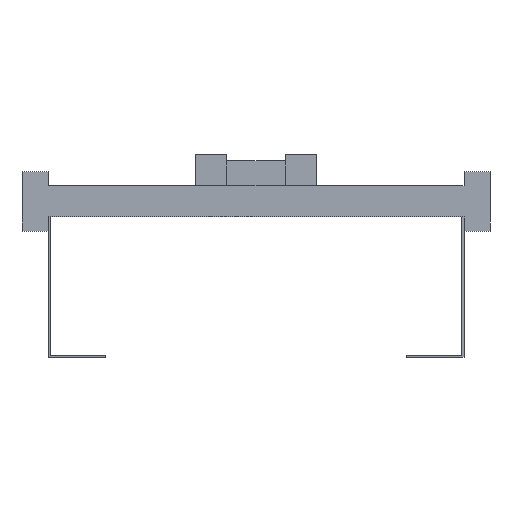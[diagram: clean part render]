
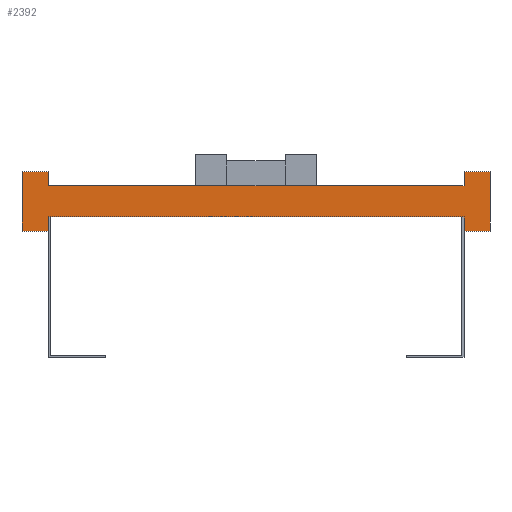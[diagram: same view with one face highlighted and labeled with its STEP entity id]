
A CAD part, front view. The second image highlights one B-rep face of the part: STEP entity #2392.
In plain terms, the highlighted planar face has unit normal (0, -1, 0).
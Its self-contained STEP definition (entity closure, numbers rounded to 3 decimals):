
#1=DIRECTION('',(0.,0.,1.));
#2=VECTOR('',#1,13.5);
#3=CARTESIAN_POINT('',(200.,0.,-28.5));
#4=LINE('',#3,#2);
#5=DIRECTION('',(0.,0.,-1.));
#6=VECTOR('',#5,13.5);
#7=CARTESIAN_POINT('',(-200.,0.,-15.));
#8=LINE('',#7,#6);
#9=DIRECTION('',(-1.,0.,0.));
#10=VECTOR('',#9,25.);
#11=CARTESIAN_POINT('',(-200.,0.,-28.5));
#12=LINE('',#11,#10);
#13=DIRECTION('',(0.,0.,1.));
#14=VECTOR('',#13,57.);
#15=CARTESIAN_POINT('',(-225.,0.,-28.5));
#16=LINE('',#15,#14);
#17=DIRECTION('',(1.,0.,0.));
#18=VECTOR('',#17,25.);
#19=CARTESIAN_POINT('',(-225.,0.,28.5));
#20=LINE('',#19,#18);
#21=DIRECTION('',(0.,0.,-1.));
#22=VECTOR('',#21,13.5);
#23=CARTESIAN_POINT('',(-200.,0.,28.5));
#24=LINE('',#23,#22);
#25=DIRECTION('',(0.,0.,1.));
#26=VECTOR('',#25,13.5);
#27=CARTESIAN_POINT('',(200.,0.,15.));
#28=LINE('',#27,#26);
#29=DIRECTION('',(1.,0.,0.));
#30=VECTOR('',#29,25.);
#31=CARTESIAN_POINT('',(200.,0.,28.5));
#32=LINE('',#31,#30);
#33=DIRECTION('',(0.,0.,-1.));
#34=VECTOR('',#33,57.);
#35=CARTESIAN_POINT('',(225.,0.,28.5));
#36=LINE('',#35,#34);
#37=DIRECTION('',(-1.,0.,0.));
#38=VECTOR('',#37,25.);
#39=CARTESIAN_POINT('',(225.,0.,-28.5));
#40=LINE('',#39,#38);
#1785=DIRECTION('',(1.,0.,0.));
#1786=VECTOR('',#1785,400.);
#1787=CARTESIAN_POINT('',(-200.,0.,-15.));
#1788=LINE('',#1787,#1786);
#1797=DIRECTION('',(1.,0.,0.));
#1798=VECTOR('',#1797,400.);
#1799=CARTESIAN_POINT('',(-200.,0.,15.));
#1800=LINE('',#1799,#1798);
#1801=CARTESIAN_POINT('',(-225.,0.,28.5));
#1802=CARTESIAN_POINT('',(-200.,0.,28.5));
#1803=VERTEX_POINT('',#1801);
#1804=VERTEX_POINT('',#1802);
#1805=CARTESIAN_POINT('',(-200.,0.,-28.5));
#1806=CARTESIAN_POINT('',(-225.,0.,-28.5));
#1807=VERTEX_POINT('',#1805);
#1808=VERTEX_POINT('',#1806);
#1809=CARTESIAN_POINT('',(225.,0.,28.5));
#1810=CARTESIAN_POINT('',(225.,0.,-28.5));
#1811=VERTEX_POINT('',#1809);
#1812=VERTEX_POINT('',#1810);
#1813=CARTESIAN_POINT('',(200.,0.,-28.5));
#1814=VERTEX_POINT('',#1813);
#1815=CARTESIAN_POINT('',(200.,0.,28.5));
#1816=VERTEX_POINT('',#1815);
#1833=CARTESIAN_POINT('',(-200.,0.,-15.));
#1835=VERTEX_POINT('',#1833);
#1837=CARTESIAN_POINT('',(-200.,0.,15.));
#1839=VERTEX_POINT('',#1837);
#1841=CARTESIAN_POINT('',(200.,0.,-15.));
#1843=VERTEX_POINT('',#1841);
#1845=CARTESIAN_POINT('',(200.,0.,15.));
#1847=VERTEX_POINT('',#1845);
#2361=CARTESIAN_POINT('',(0.,0.,0.));
#2362=DIRECTION('',(0.,1.,0.));
#2363=DIRECTION('',(1.,0.,0.));
#2364=AXIS2_PLACEMENT_3D('',#2361,#2362,#2363);
#2365=PLANE('',#2364);
#2367=ORIENTED_EDGE('',*,*,#2366,.T.);
#2369=ORIENTED_EDGE('',*,*,#2368,.F.);
#2371=ORIENTED_EDGE('',*,*,#2370,.T.);
#2373=ORIENTED_EDGE('',*,*,#2372,.T.);
#2375=ORIENTED_EDGE('',*,*,#2374,.T.);
#2377=ORIENTED_EDGE('',*,*,#2376,.T.);
#2379=ORIENTED_EDGE('',*,*,#2378,.T.);
#2381=ORIENTED_EDGE('',*,*,#2380,.T.);
#2383=ORIENTED_EDGE('',*,*,#2382,.T.);
#2385=ORIENTED_EDGE('',*,*,#2384,.T.);
#2387=ORIENTED_EDGE('',*,*,#2386,.T.);
#2389=ORIENTED_EDGE('',*,*,#2388,.T.);
#2390=EDGE_LOOP('',(#2367,#2369,#2371,#2373,#2375,#2377,#2379,#2381,#2383,#2385,
#2387,#2389));
#2391=FACE_OUTER_BOUND('',#2390,.F.);
#2392=ADVANCED_FACE('',(#2391),#2365,.F.);
#2366=EDGE_CURVE('',#1814,#1843,#4,.T.);
#2368=EDGE_CURVE('',#1835,#1843,#1788,.T.);
#2370=EDGE_CURVE('',#1835,#1807,#8,.T.);
#2372=EDGE_CURVE('',#1807,#1808,#12,.T.);
#2374=EDGE_CURVE('',#1808,#1803,#16,.T.);
#2376=EDGE_CURVE('',#1803,#1804,#20,.T.);
#2378=EDGE_CURVE('',#1804,#1839,#24,.T.);
#2380=EDGE_CURVE('',#1839,#1847,#1800,.T.);
#2382=EDGE_CURVE('',#1847,#1816,#28,.T.);
#2384=EDGE_CURVE('',#1816,#1811,#32,.T.);
#2386=EDGE_CURVE('',#1811,#1812,#36,.T.);
#2388=EDGE_CURVE('',#1812,#1814,#40,.T.);
